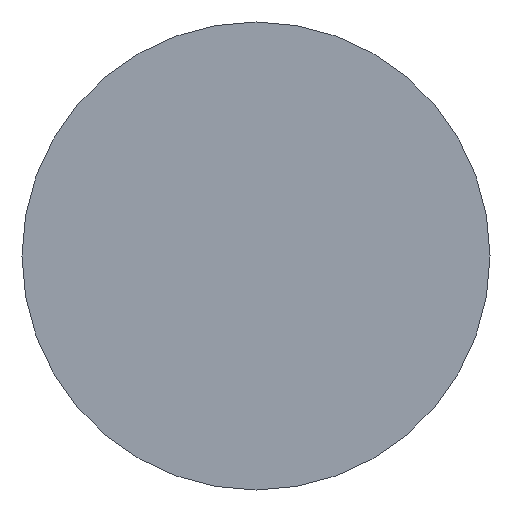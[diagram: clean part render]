
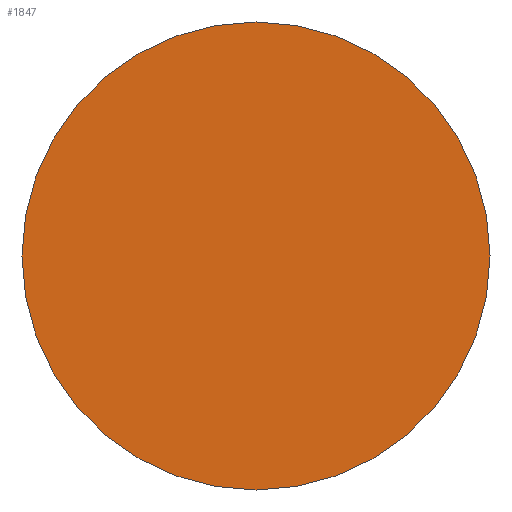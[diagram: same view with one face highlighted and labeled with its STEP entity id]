
A CAD part, front view. The second image highlights one B-rep face of the part: STEP entity #1847.
In plain terms, the highlighted planar face has unit normal (0, -1, 0).
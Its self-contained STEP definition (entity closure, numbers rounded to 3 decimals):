
#508 = ORIENTED_EDGE ( 'NONE', *, *, #3765, .F. ) ;
#582 = VERTEX_POINT ( 'NONE', #2207 ) ;
#587 = AXIS2_PLACEMENT_3D ( 'NONE', #6187, #2174, #1756 ) ;
#638 = CARTESIAN_POINT ( 'NONE',  ( 0., 0., 0. ) ) ;
#675 = DIRECTION ( 'NONE',  ( 0., 1., 0. ) ) ;
#988 = EDGE_LOOP ( 'NONE', ( #508, #1214 ) ) ;
#1046 = PLANE ( 'NONE',  #3221 ) ;
#1197 = DIRECTION ( 'NONE',  ( 0., 0., 1. ) ) ;
#1214 = ORIENTED_EDGE ( 'NONE', *, *, #1461, .F. ) ;
#1245 = AXIS2_PLACEMENT_3D ( 'NONE', #4124, #1777, #4708 ) ;
#1461 = EDGE_CURVE ( 'NONE', #5401, #582, #4489, .T. ) ;
#1756 = DIRECTION ( 'NONE',  ( 0., 0., 1. ) ) ;
#1777 = DIRECTION ( 'NONE',  ( 0., 1., 0. ) ) ;
#1847 = ADVANCED_FACE ( 'NONE', ( #4981 ), #1046, .F. ) ;
#2174 = DIRECTION ( 'NONE',  ( 0., 1., 0. ) ) ;
#2207 = CARTESIAN_POINT ( 'NONE',  ( 0., 0., -15. ) ) ;
#2854 = CARTESIAN_POINT ( 'NONE',  ( 0., 0., 15. ) ) ;
#3171 = CIRCLE ( 'NONE', #1245, 15. ) ;
#3221 = AXIS2_PLACEMENT_3D ( 'NONE', #638, #675, #1197 ) ;
#3765 = EDGE_CURVE ( 'NONE', #582, #5401, #3171, .T. ) ;
#4124 = CARTESIAN_POINT ( 'NONE',  ( 0., 0., 0. ) ) ;
#4489 = CIRCLE ( 'NONE', #587, 15. ) ;
#4708 = DIRECTION ( 'NONE',  ( 0., 0., 1. ) ) ;
#4981 = FACE_OUTER_BOUND ( 'NONE', #988, .T. ) ;
#5401 = VERTEX_POINT ( 'NONE', #2854 ) ;
#6187 = CARTESIAN_POINT ( 'NONE',  ( 0., 0., 0. ) ) ;
